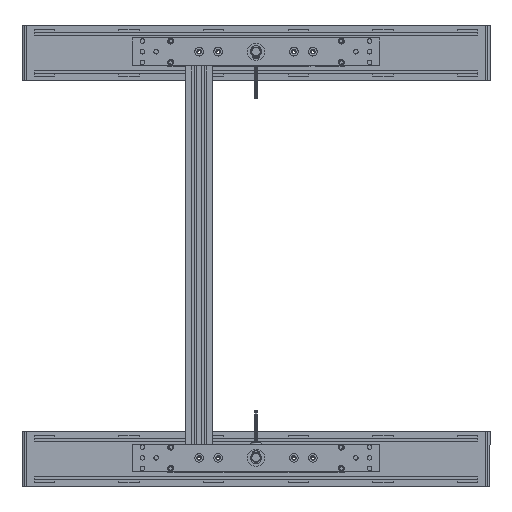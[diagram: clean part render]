
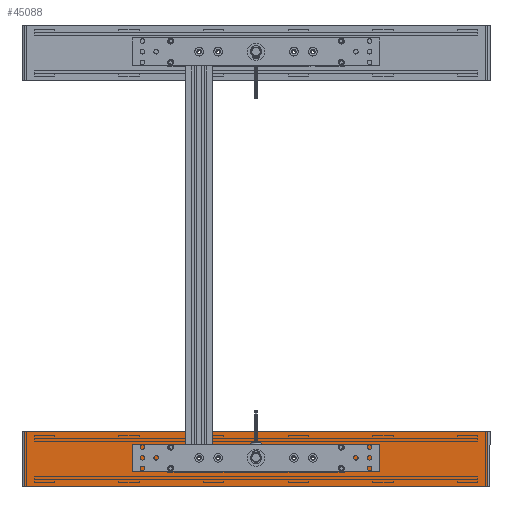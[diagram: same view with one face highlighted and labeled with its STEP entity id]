
A CAD part, top view. The second image highlights one B-rep face of the part: STEP entity #45088.
In plain terms, the highlighted planar face has unit normal (0, 0, 1).
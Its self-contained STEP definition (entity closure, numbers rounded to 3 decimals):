
#3055=CIRCLE('',#57584,4.25);
#3056=CIRCLE('',#57585,4.25);
#3057=CIRCLE('',#57586,4.25);
#3058=CIRCLE('',#57587,4.25);
#15545=ORIENTED_EDGE('',*,*,#22440,.F.);
#15546=ORIENTED_EDGE('',*,*,#22441,.F.);
#15547=ORIENTED_EDGE('',*,*,#22442,.F.);
#15548=ORIENTED_EDGE('',*,*,#22443,.F.);
#15549=ORIENTED_EDGE('',*,*,#22444,.F.);
#15550=ORIENTED_EDGE('',*,*,#22445,.T.);
#15551=ORIENTED_EDGE('',*,*,#22446,.T.);
#15552=ORIENTED_EDGE('',*,*,#22447,.T.);
#22440=EDGE_CURVE('',#26973,#26973,#3055,.T.);
#22441=EDGE_CURVE('',#26974,#26974,#3056,.T.);
#22442=EDGE_CURVE('',#26975,#26975,#3057,.T.);
#22443=EDGE_CURVE('',#26976,#26976,#3058,.T.);
#22444=EDGE_CURVE('',#26977,#26978,#31560,.T.);
#22445=EDGE_CURVE('',#26977,#26979,#31561,.T.);
#22446=EDGE_CURVE('',#26979,#26980,#31562,.T.);
#22447=EDGE_CURVE('',#26980,#26978,#31563,.F.);
#26973=VERTEX_POINT('',#84077);
#26974=VERTEX_POINT('',#84079);
#26975=VERTEX_POINT('',#84081);
#26976=VERTEX_POINT('',#84083);
#26977=VERTEX_POINT('',#84085);
#26978=VERTEX_POINT('',#84086);
#26979=VERTEX_POINT('',#84088);
#26980=VERTEX_POINT('',#84090);
#31560=LINE('',#84084,#36041);
#31561=LINE('',#84087,#36042);
#31562=LINE('',#84089,#36043);
#31563=LINE('',#84091,#36044);
#36041=VECTOR('',#69891,1000.);
#36042=VECTOR('',#69892,1000.);
#36043=VECTOR('',#69893,1000.);
#36044=VECTOR('',#69894,1000.);
#38560=EDGE_LOOP('',(#15545));
#38561=EDGE_LOOP('',(#15546));
#38562=EDGE_LOOP('',(#15547));
#38563=EDGE_LOOP('',(#15548));
#38564=EDGE_LOOP('',(#15549,#15550,#15551,#15552));
#41192=FACE_BOUND('',#38560,.T.);
#41193=FACE_BOUND('',#38561,.T.);
#41194=FACE_BOUND('',#38562,.T.);
#41195=FACE_BOUND('',#38563,.T.);
#41196=FACE_BOUND('',#38564,.T.);
#42847=PLANE('',#57583);
#45088=ADVANCED_FACE('',(#41192,#41193,#41194,#41195,#41196),#42847,.F.);
#57583=AXIS2_PLACEMENT_3D('',#84075,#69881,#69882);
#57584=AXIS2_PLACEMENT_3D('',#84076,#69883,#69884);
#57585=AXIS2_PLACEMENT_3D('',#84078,#69885,#69886);
#57586=AXIS2_PLACEMENT_3D('',#84080,#69887,#69888);
#57587=AXIS2_PLACEMENT_3D('',#84082,#69889,#69890);
#69881=DIRECTION('',(0.,0.,-1.));
#69882=DIRECTION('',(-1.,0.,0.));
#69883=DIRECTION('',(0.,0.,1.));
#69884=DIRECTION('',(-1.,0.,0.));
#69885=DIRECTION('',(0.,0.,1.));
#69886=DIRECTION('',(-1.,0.,0.));
#69887=DIRECTION('',(0.,0.,1.));
#69888=DIRECTION('',(-1.,0.,0.));
#69889=DIRECTION('',(0.,0.,1.));
#69890=DIRECTION('',(-1.,0.,0.));
#69891=DIRECTION('',(-1.,0.,0.));
#69892=DIRECTION('',(0.,1.,0.));
#69893=DIRECTION('',(-1.,0.,0.));
#69894=DIRECTION('',(0.,1.,0.));
#84075=CARTESIAN_POINT('',(340.,-40.,0.));
#84076=CARTESIAN_POINT('',(-82.5,0.,0.));
#84077=CARTESIAN_POINT('',(-86.75,0.,0.));
#84078=CARTESIAN_POINT('',(82.5,0.,0.));
#84079=CARTESIAN_POINT('',(78.25,0.,0.));
#84080=CARTESIAN_POINT('',(55.,0.,0.));
#84081=CARTESIAN_POINT('',(50.75,0.,0.));
#84082=CARTESIAN_POINT('',(-55.,0.,0.));
#84083=CARTESIAN_POINT('',(-59.25,0.,0.));
#84084=CARTESIAN_POINT('',(340.,-40.,0.));
#84085=CARTESIAN_POINT('',(336.,-40.,0.));
#84086=CARTESIAN_POINT('',(-336.,-40.,0.));
#84087=CARTESIAN_POINT('',(336.,-40.,0.));
#84088=CARTESIAN_POINT('',(336.,40.,0.));
#84089=CARTESIAN_POINT('',(340.,40.,0.));
#84090=CARTESIAN_POINT('',(-336.,40.,0.));
#84091=CARTESIAN_POINT('',(-336.,-40.,0.));
